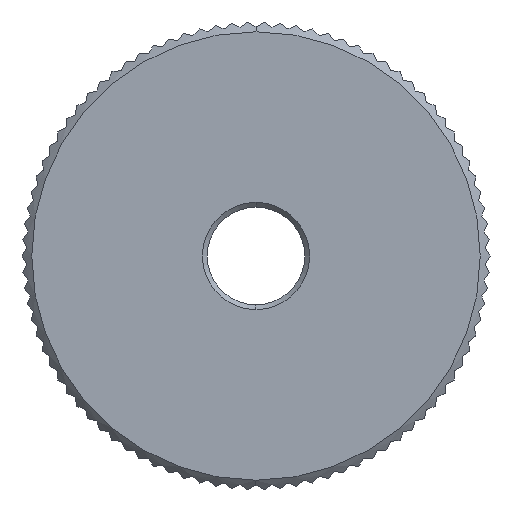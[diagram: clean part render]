
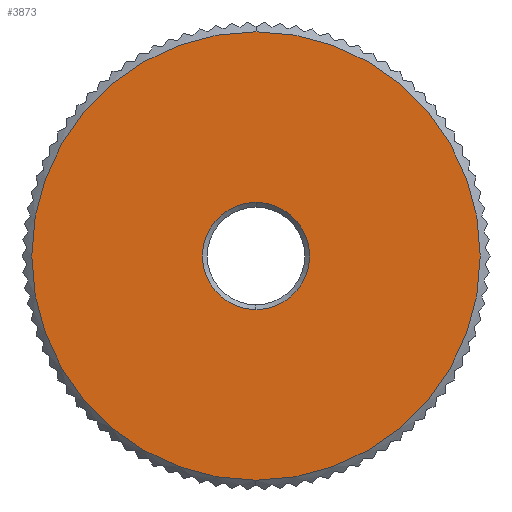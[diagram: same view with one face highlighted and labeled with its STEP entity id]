
A CAD part, left-side view. The second image highlights one B-rep face of the part: STEP entity #3873.
In plain terms, the highlighted planar face has unit normal (-1, 0, 0).
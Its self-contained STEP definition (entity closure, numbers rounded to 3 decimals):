
#3013 = DIRECTION ( 'NONE',  ( 0., 0., -1. ) ) ;
#3014 = DIRECTION ( 'NONE',  ( -1., 0., 0. ) ) ;
#3015 = AXIS2_PLACEMENT_3D ( 'NONE', #3019, #3014, #3013 ) ;
#3016 = CIRCLE ( 'NONE', #3015, 11.5 ) ;
#3017 = DIRECTION ( 'NONE',  ( 0., 0., -1. ) ) ;
#3018 = DIRECTION ( 'NONE',  ( 1., 0., 0. ) ) ;
#3019 = CARTESIAN_POINT ( 'NONE',  ( -5., 0., 0. ) ) ;
#3020 = CARTESIAN_POINT ( 'NONE',  ( -5., 0., 0. ) ) ;
#3021 = AXIS2_PLACEMENT_3D ( 'NONE', #3020, #3018, #3017 ) ;
#3022 = FACE_OUTER_BOUND ( 'NONE', #3893, .T. ) ;
#3023 = FACE_BOUND ( 'NONE', #3868, .T. ) ;
#3026 = PLANE ( 'NONE',  #3021 ) ;
#3050 = DIRECTION ( 'NONE',  ( 0., 0., -1. ) ) ;
#3051 = DIRECTION ( 'NONE',  ( 1., 0., 0. ) ) ;
#3052 = CARTESIAN_POINT ( 'NONE',  ( -5., 0., 0. ) ) ;
#3053 = AXIS2_PLACEMENT_3D ( 'NONE', #3052, #3051, #3050 ) ;
#3054 = CIRCLE ( 'NONE', #3053, 2.75 ) ;
#3862 = ORIENTED_EDGE ( 'NONE', *, *, #6324, .T. ) ;
#3868 = EDGE_LOOP ( 'NONE', ( #3862, #3909 ) ) ;
#3873 = ADVANCED_FACE ( 'NONE', ( #3023, #3022 ), #3026, .F. ) ;
#3874 = EDGE_CURVE ( 'NONE', #6721, #6718, #3016, .T. ) ;
#3878 = ORIENTED_EDGE ( 'NONE', *, *, #6720, .T. ) ;
#3893 = EDGE_LOOP ( 'NONE', ( #3895, #3878 ) ) ;
#3895 = ORIENTED_EDGE ( 'NONE', *, *, #3874, .T. ) ;
#3899 = EDGE_CURVE ( 'NONE', #6339, #6325, #3054, .T. ) ;
#3909 = ORIENTED_EDGE ( 'NONE', *, *, #3899, .T. ) ;
#4892 = CARTESIAN_POINT ( 'NONE',  ( -5., 0., 2.75 ) ) ;
#4893 = DIRECTION ( 'NONE',  ( 0., 0., -1. ) ) ;
#4894 = DIRECTION ( 'NONE',  ( 1., 0., 0. ) ) ;
#4895 = CARTESIAN_POINT ( 'NONE',  ( -5., 0., 0. ) ) ;
#4896 = AXIS2_PLACEMENT_3D ( 'NONE', #4895, #4894, #4893 ) ;
#4898 = CIRCLE ( 'NONE', #4896, 2.75 ) ;
#4926 = CARTESIAN_POINT ( 'NONE',  ( -5., 0., -2.75 ) ) ;
#5605 = CARTESIAN_POINT ( 'NONE',  ( -5., 0., -11.5 ) ) ;
#5606 = DIRECTION ( 'NONE',  ( 0., 0., -1. ) ) ;
#5607 = DIRECTION ( 'NONE',  ( -1., 0., 0. ) ) ;
#5608 = CARTESIAN_POINT ( 'NONE',  ( -5., 0., 0. ) ) ;
#5609 = AXIS2_PLACEMENT_3D ( 'NONE', #5608, #5607, #5606 ) ;
#5610 = CIRCLE ( 'NONE', #5609, 11.5 ) ;
#5611 = CARTESIAN_POINT ( 'NONE',  ( -5., 0., 11.5 ) ) ;
#6324 = EDGE_CURVE ( 'NONE', #6325, #6339, #4898, .T. ) ;
#6325 = VERTEX_POINT ( 'NONE', #4892 ) ;
#6339 = VERTEX_POINT ( 'NONE', #4926 ) ;
#6718 = VERTEX_POINT ( 'NONE', #5611 ) ;
#6720 = EDGE_CURVE ( 'NONE', #6718, #6721, #5610, .T. ) ;
#6721 = VERTEX_POINT ( 'NONE', #5605 ) ;
